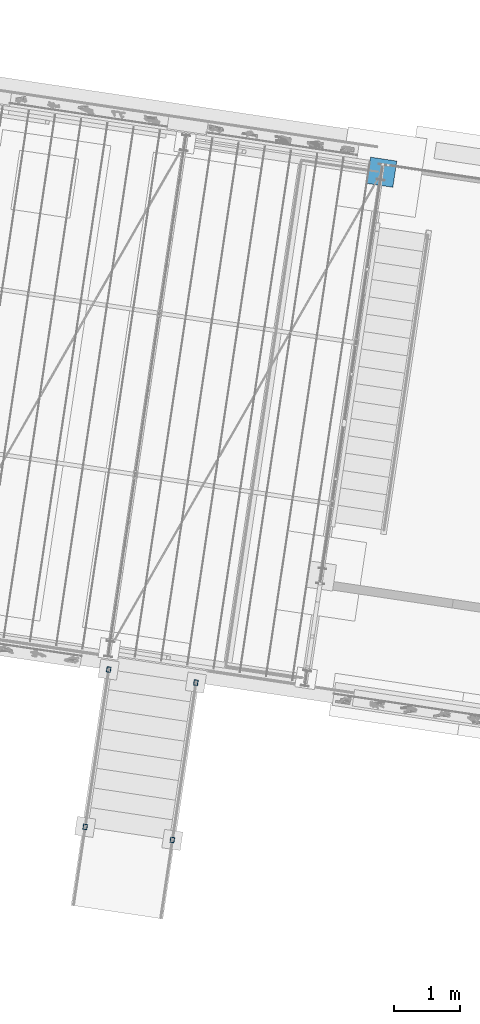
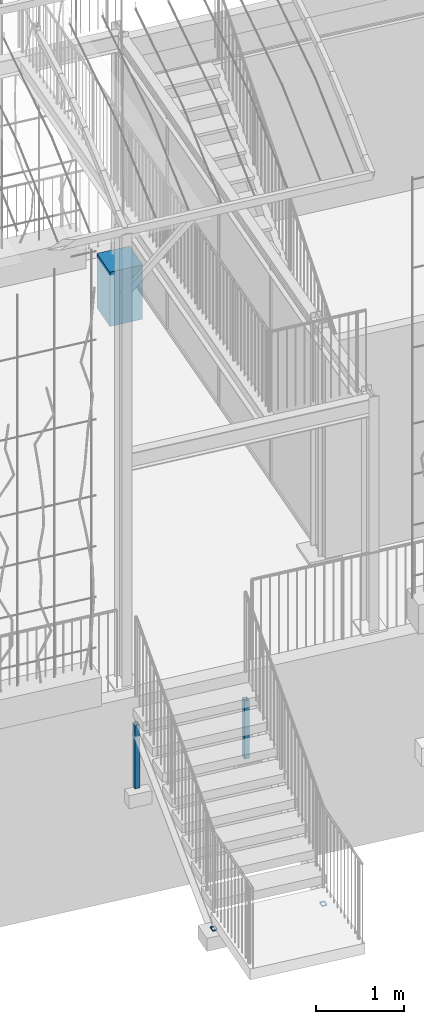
# One storey, part 5 of 142: 5 columns, 1 element without a shape of its own.
"""IFC4 building model written with IfcOpenShell, lengths in metres."""

from ifc_helpers import new_model, si_unit, direction, frame, origin_with_axes, place, context, subcontext, project, spatial, polyline, hollow_rectangle, outline, extrude, material, material_profile, profile_set, profile_usage, type_object, element, aggregate, save


model = new_model("IFC4")

# Units and contexts
model_context = context("Model", 3, precision=1e-05, world=origin_with_axes(), true_north=direction((0.0, 1.0)))
body_context = subcontext(model_context, "Body", "Model", "MODEL_VIEW")
ifc_project = project(units=[si_unit("VOLUMEUNIT", "CUBIC_METRE"), si_unit("LENGTHUNIT", "METRE"), si_unit("AREAUNIT", "SQUARE_METRE")], contexts=[model_context])

# Site, building, storey
site_placement = place(None, origin_with_axes())
site = spatial("IfcSite", under=ifc_project, at=site_placement, Name="Lares · Rua das Mercês · artigo 4771")
building_placement = place(site_placement, frame((12.0, 10.2, 13.9), z_axis=(0.0, 0.0, 1.0), x_axis=(0.989015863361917, -0.147809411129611, 0.0)))
building = spatial("IfcBuilding", under=site, at=building_placement, Name="Casa Sobreposta")
storey_placement = place(building_placement, origin_with_axes())
storey = spatial("IfcBuildingStorey", under=building, at=storey_placement, Name="00 · Habitação e estacionamento", Elevation=13.9)

# Stair, columns
stair_placement = place(storey_placement, origin_with_axes())
stair = element("IfcStair", 1, at=stair_placement, inside=storey, Name="Jardim · acesso do terraço", PredefinedType="STRAIGHT_RUN_STAIR")
ifc_material_1 = material(Name="Aço pintado / Stahl lackiert", Category="steel")
ifc_material_profile = material_profile(ifc_material_1, hollow_rectangle(XDim=0.06, YDim=0.08, WallThickness=0.004))
ifc_profile_set = profile_set([ifc_material_profile], Name="RHS80x60x4")
ifc_profile_usage_1 = profile_usage(ifc_profile_set)
column_type = type_object("IfcColumnType", Name="RHS80x60x4 / steel", PredefinedType="NOTDEFINED", material=ifc_profile_set)
column_1_placement = place(stair_placement, frame((-2.965, -1.75, -1.28531570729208), z_axis=(0.0, 0.0, 1.0), x_axis=(1.0, 0.0, 0.0)))
column_1 = element("IfcColumn", 2, at=column_1_placement, type_object=column_type, material=ifc_profile_usage_1, Name="Jardim · montante", context=body_context, shape_type="SweptSolid", body=[
    extrude(hollow_rectangle(XDim=0.06, YDim=0.08, WallThickness=0.004), origin_with_axes(), (0.0, 0.0, 1.0), 0.868649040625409),
])
ifc_profile_usage_2 = profile_usage(ifc_profile_set)
column_2_placement = place(stair_placement, frame((-2.965, -4.15, -1.69), z_axis=(0.0, 0.0, 1.0), x_axis=(1.0, 0.0, 0.0)))
column_2 = element("IfcColumn", 3, at=column_2_placement, type_object=column_type, material=ifc_profile_usage_2, Name="Jardim · montante", context=body_context, shape_type="SweptSolid", body=[
    extrude(hollow_rectangle(XDim=0.06, YDim=0.08, WallThickness=0.004), origin_with_axes(), (0.0, 0.0, 1.0), 0.02),
])
ifc_profile_usage_3 = profile_usage(ifc_profile_set)
column_3_placement = place(stair_placement, frame((-1.635, -1.75, -1.21671618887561), z_axis=(0.0, 0.0, 1.0), x_axis=(1.0, 0.0, 0.0)))
column_3 = element("IfcColumn", 4, at=column_3_placement, type_object=column_type, material=ifc_profile_usage_3, Name="Jardim · montante", context=body_context, shape_type="SweptSolid", body=[
    extrude(hollow_rectangle(XDim=0.06, YDim=0.08, WallThickness=0.004), origin_with_axes(), (0.0, 0.0, 1.0), 0.800049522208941),
])
ifc_profile_usage_4 = profile_usage(ifc_profile_set)
column_4_placement = place(stair_placement, frame((-1.635, -4.15, -1.69), z_axis=(0.0, 0.0, 1.0), x_axis=(1.0, 0.0, 0.0)))
column_4 = element("IfcColumn", 5, at=column_4_placement, type_object=column_type, material=ifc_profile_usage_4, Name="Jardim · montante", context=body_context, shape_type="SweptSolid", body=[
    extrude(hollow_rectangle(XDim=0.06, YDim=0.08, WallThickness=0.004), origin_with_axes(), (0.0, 0.0, 1.0), 0.02),
])
aggregate(stair, [column_1, column_2, column_3, column_4])

# Column
ifc_material_2 = material(Name="Betão armado / Stahlbeton", Category="concrete")
column_5_placement = place(storey_placement, frame((0.0, 0.0, -0.75), z_axis=(0.0, 0.0, 1.0), x_axis=(1.0, 0.0, 0.0)))
element("IfcColumn", 6, at=column_5_placement, inside=storey, material=ifc_material_2, Name="Pedestal 1B · betão 400 x 400", context=body_context, shape_type="SweptSolid", body=[
    extrude(outline(polyline([(0.2, 6.08), (0.2, 6.48), (-0.2, 6.48), (-0.2, 6.08), (0.2, 6.08)])), origin_with_axes(), (0.0, 0.0, 1.0), 0.75),
])

save(model, "model.ifc")
